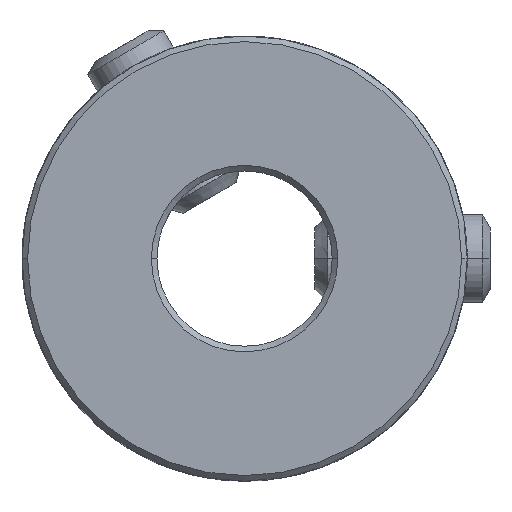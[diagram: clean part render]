
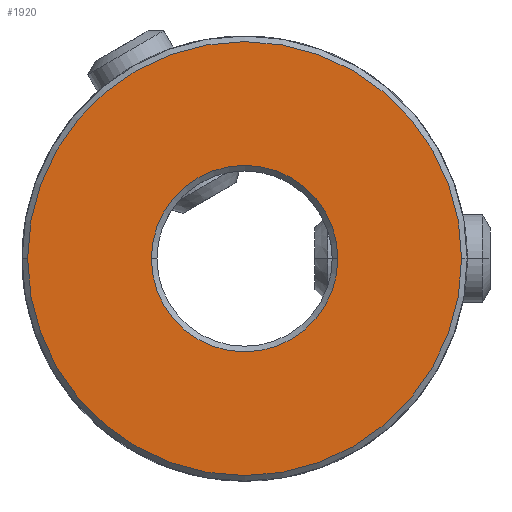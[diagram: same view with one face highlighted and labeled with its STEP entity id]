
A CAD part, front view. The second image highlights one B-rep face of the part: STEP entity #1920.
In plain terms, the highlighted planar face has unit normal (0, -1, 0).
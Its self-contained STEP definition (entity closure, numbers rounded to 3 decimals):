
#2=CARTESIAN_POINT('',(0.,-15.9,0.));
#3=DIRECTION('',(0.,-1.,0.));
#4=DIRECTION('',(1.,0.,0.));
#5=AXIS2_PLACEMENT_3D('',#2,#3,#4);
#7=CARTESIAN_POINT('',(0.,-15.9,
0.));
#8=DIRECTION('',(0.,-1.,0.));
#9=DIRECTION('',(-1.,0.,0.));
#10=AXIS2_PLACEMENT_3D('',#7,#8,#9);
#12=CARTESIAN_POINT('',(0.,-15.9,0.));
#13=DIRECTION('',(0.,1.,0.));
#14=DIRECTION('',(1.,0.,0.));
#15=AXIS2_PLACEMENT_3D('',#12,#13,#14);
#17=CARTESIAN_POINT('',(0.,-15.9,0.));
#18=DIRECTION('',(0.,1.,0.));
#19=DIRECTION('',(-1.,0.,0.));
#20=AXIS2_PLACEMENT_3D('',#17,#18,#19);
#1759=CARTESIAN_POINT('',(5.32,-15.9,0.));
#1760=CARTESIAN_POINT('',(-5.32,-15.9,0.));
#1761=VERTEX_POINT('',#1759);
#1762=VERTEX_POINT('',#1760);
#1775=CARTESIAN_POINT('',(12.38,-15.9,0.));
#1776=CARTESIAN_POINT('',(-12.38,-15.9,0.));
#1777=VERTEX_POINT('',#1775);
#1778=VERTEX_POINT('',#1776);
#1903=CARTESIAN_POINT('',(0.,-15.9,0.));
#1904=DIRECTION('',(0.,1.,0.));
#1905=DIRECTION('',(1.,0.,0.));
#1906=AXIS2_PLACEMENT_3D('',#1903,#1904,#1905);
#1907=PLANE('',#1906);
#1909=ORIENTED_EDGE('',*,*,#1908,.F.);
#1911=ORIENTED_EDGE('',*,*,#1910,.F.);
#1912=EDGE_LOOP('',(#1909,#1911));
#1913=FACE_OUTER_BOUND('',#1912,.F.);
#1915=ORIENTED_EDGE('',*,*,#1914,.F.);
#1917=ORIENTED_EDGE('',*,*,#1916,.F.);
#1918=EDGE_LOOP('',(#1915,#1917));
#1919=FACE_BOUND('',#1918,.F.);
#1920=ADVANCED_FACE('',(#1913,#1919),#1907,.F.);
#6=CIRCLE('',#5,12.38);
#11=CIRCLE('',#10,12.38);
#16=CIRCLE('',#15,5.32);
#21=CIRCLE('',#20,5.32);
#1908=EDGE_CURVE('',#1777,#1778,#6,.T.);
#1910=EDGE_CURVE('',#1778,#1777,#11,.T.);
#1914=EDGE_CURVE('',#1761,#1762,#16,.T.);
#1916=EDGE_CURVE('',#1762,#1761,#21,.T.);
